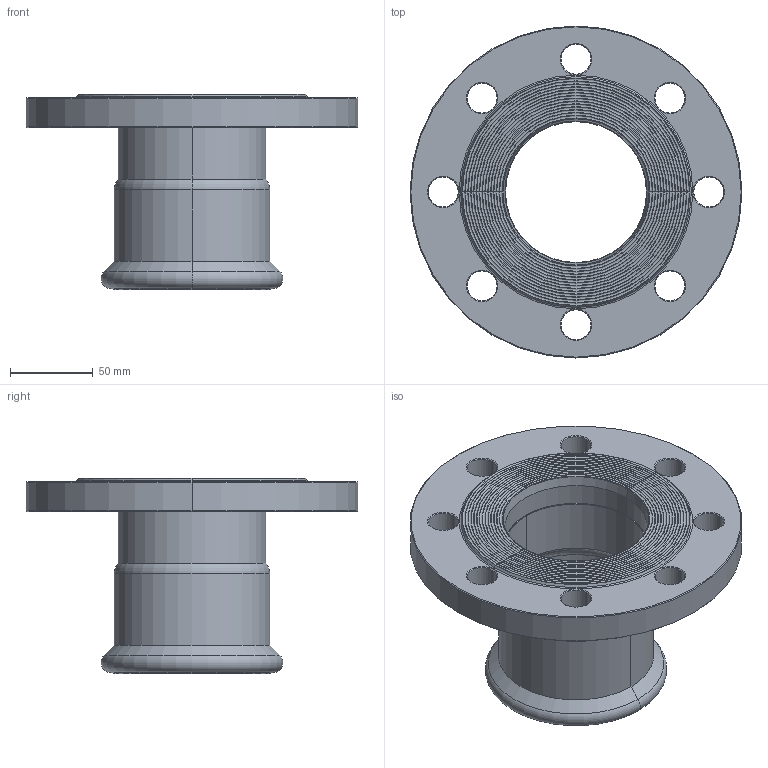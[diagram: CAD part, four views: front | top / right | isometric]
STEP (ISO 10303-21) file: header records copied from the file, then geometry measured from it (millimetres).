
FILE_DESCRIPTION(('Creo Elements/Direct Modeling STEP Export'),'2;1');
FILE_NAME('6206607.stp','2022-03-16T14:56:50',(''),(''),'PTC Creo Elements/Direct Modeling STEP processor for AP214 (Solid Model)','PTC Creo Elements/Direct Modeling 19.0C 15-Aug-2015 (C) Parametric Technology GmbH','');
FILE_SCHEMA(('AUTOMOTIVE_DESIGN { 1 0 10303 214 1 1 1 1 }'));
Length unit declared in the file: millimetre
Products named in the file (1): 88.9
Bounding box: 200 x 200 x 117.57 mm (x, y, z)
Volume: 522515.7 mm3; surface area: 131215.2 mm2
Topology: 1 solids, 1 shells, 147 faces, 310 edges, 182 vertices
Faces by surface type: cone 58, torus 40, cylinder 30, plane 19
Entity records: 3507 total; most frequent: ORIENTED_EDGE 620, DIRECTION 618, CARTESIAN_POINT 535, EDGE_CURVE 310, AXIS2_PLACEMENT_3D 265, VERTEX_POINT 182, EDGE_LOOP 182, FACE_OUTER_BOUND 147
